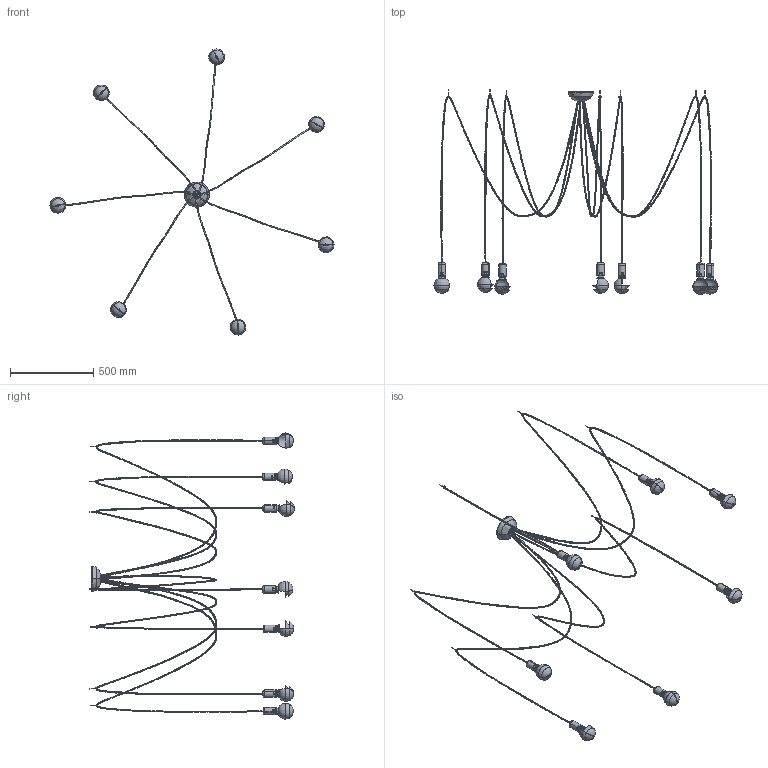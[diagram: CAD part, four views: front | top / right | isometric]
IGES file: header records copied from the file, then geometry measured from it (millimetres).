
Start section: SolidWorks IGES file using analytic representation for surfaces
Global section: file name: E:\3D lampy\Paj¹k\Paj¹k 6786.IGS; native system: SolidWorks 2016; preprocessor: SolidWorks 2016; author: Asia; date: 160713.112126; units: millimetre
Bounding box: 1707.31 x 1231.3 x 1719.64 mm (x, y, z)
Surface area: 966765.2 mm2 (no closed solid volume)
Topology: 0 solids, 0 shells, 487 faces, 5740 edges, 5733 vertices
Faces by surface type: revolution 260, bspline 227
